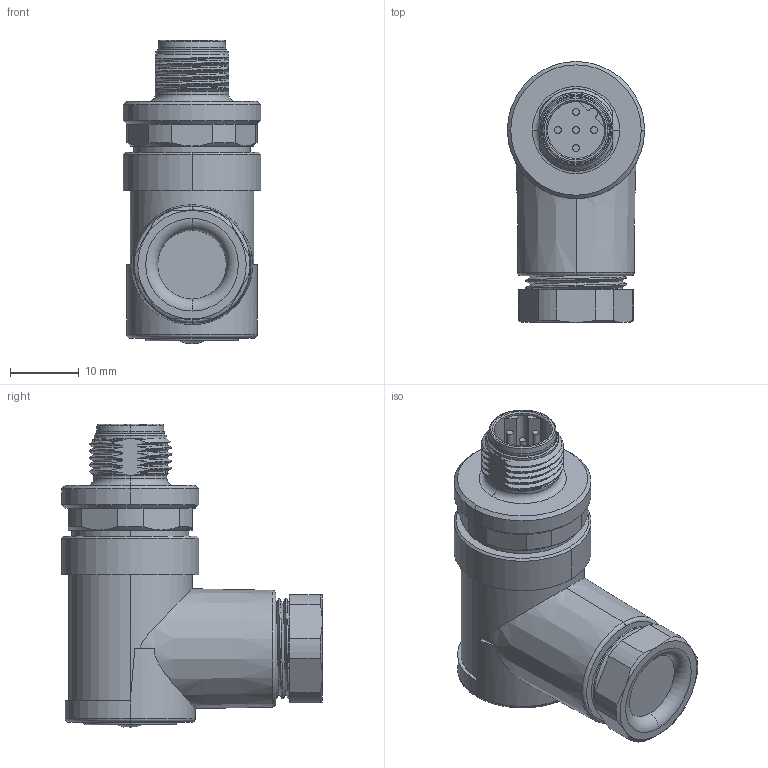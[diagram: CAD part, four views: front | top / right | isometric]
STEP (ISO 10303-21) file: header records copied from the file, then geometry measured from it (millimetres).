
FILE_DESCRIPTION((''),'2;1');
FILE_NAME('C-T4113402051-000','2022-11-02T07:53:45',('workeradm'),('TE Connectivity Ltd.'),'CREO PARAMETRIC BY PTC INC, 2021072','CREO PARAMETRIC BY PTC INC, 2021072','');
FILE_SCHEMA(('AUTOMOTIVE_DESIGN { 1 0 10303 214 1 1 1 1 }'));
Length unit declared in the file: millimetre
Products named in the file (1): C-T4113402051-000
Bounding box: 20 x 38 x 44.2 mm (x, y, z)
Volume: 14164.4 mm3; surface area: 4822.2 mm2
Topology: 1 solids, 1 shells, 198 faces, 480 edges, 302 vertices
Faces by surface type: cylinder 56, plane 50, bspline 45, cone 31, torus 14, sphere 2
Entity records: 17112 total; most frequent: CARTESIAN_POINT 12600, ORIENTED_EDGE 950, DIRECTION 805, EDGE_CURVE 475, AXIS2_PLACEMENT_3D 325, VERTEX_POINT 296, EDGE_LOOP 215, FACE_OUTER_BOUND 198
